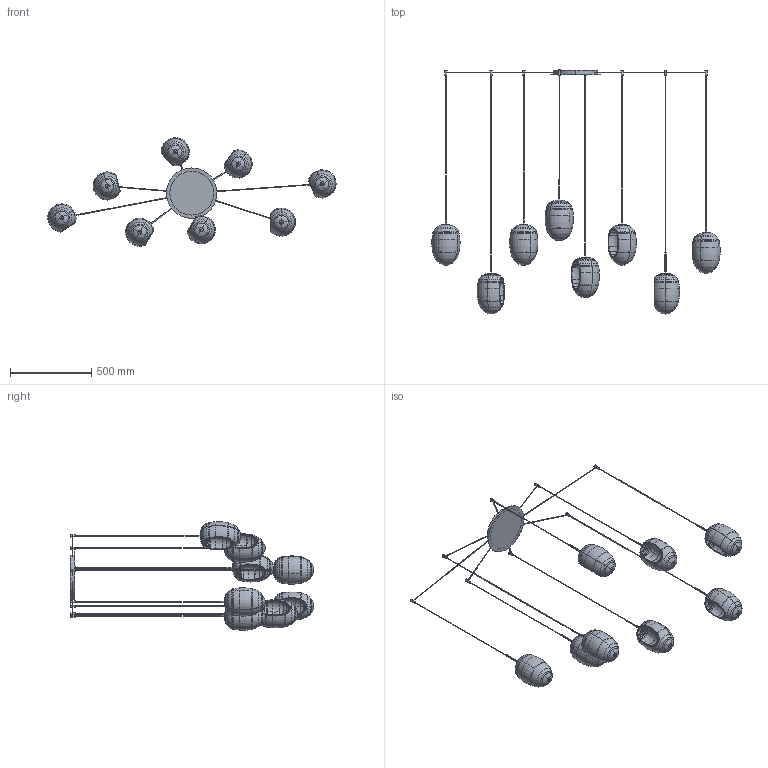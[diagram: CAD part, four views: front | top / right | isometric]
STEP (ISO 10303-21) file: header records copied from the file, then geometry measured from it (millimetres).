
FILE_DESCRIPTION (( 'STEP AP203' ), '1' );
FILE_NAME ('FOS08_8 sospensione.STEP', '2025-05-19T07:11:06', ( '' ), ( '' ), 'SwSTEP 2.0', 'SolidWorks 2022', '' );
FILE_SCHEMA (( 'CONFIG_CONTROL_DESIGN' ));
Length unit declared in the file: millimetre
Products named in the file (14): FOS08_8 sospensione; FOSxx-01-FOS_lampada completa con cavo_H=1500; Cavo x Fos_H=1750; FOSxx-01-FOS_lampada completa con cavo_H=1600; Cavo x Fos_H=1950; FOSxx-01-FOS_lampada completa con cavo_H=1800; Cavo x Fos_H=1500; FOSxx-01-FOS_rosone+cavi_FOS_8 sospensione<A macchina>; FOSxx-01-FOS_lampada completa con cavo_H=1950; FOS parte in vetro; Cavo x Fos_H=1600; FOSxx-01-FOS_lampada completa con cavo_H=1750; Porta lampada definitivo FOS; Cavo x Fos_H=1800
Assembly tree (24 placements, depth 3):
  FOS08_8 sospensione
    FOSxx-01-FOS_rosone+cavi_FOS_8 sospensione<A macchina>
    FOSxx-01-FOS_lampada completa con cavo_H=1800  x3
      Porta lampada definitivo FOS
      FOS parte in vetro
      Cavo x Fos_H=1800
    FOSxx-01-FOS_lampada completa con cavo_H=1500  x2
      Porta lampada definitivo FOS
      FOS parte in vetro
      Cavo x Fos_H=1500
    FOSxx-01-FOS_lampada completa con cavo_H=1750
      Porta lampada definitivo FOS
      FOS parte in vetro
      Cavo x Fos_H=1750
    FOSxx-01-FOS_lampada completa con cavo_H=1600
      Porta lampada definitivo FOS
      FOS parte in vetro
      Cavo x Fos_H=1600
    FOSxx-01-FOS_lampada completa con cavo_H=1950
      Porta lampada definitivo FOS
      FOS parte in vetro
      Cavo x Fos_H=1950
Bounding box: 1773.37 x 1500.54 x 667.92 mm (x, y, z)
Volume: 5023987.4 mm3; surface area: 2816480.1 mm2
Topology: 81 solids, 81 shells, 1854 faces, 4415 edges, 2732 vertices
Faces by surface type: torus 648, plane 483, cylinder 379, bspline 176, cone 168
Entity records: 17661 total; most frequent: CARTESIAN_POINT 8578, DIRECTION 1602, ORIENTED_EDGE 1486, EDGE_CURVE 743, AXIS2_PLACEMENT_3D 683, VERTEX_POINT 466, EDGE_LOOP 347, CIRCLE 342
